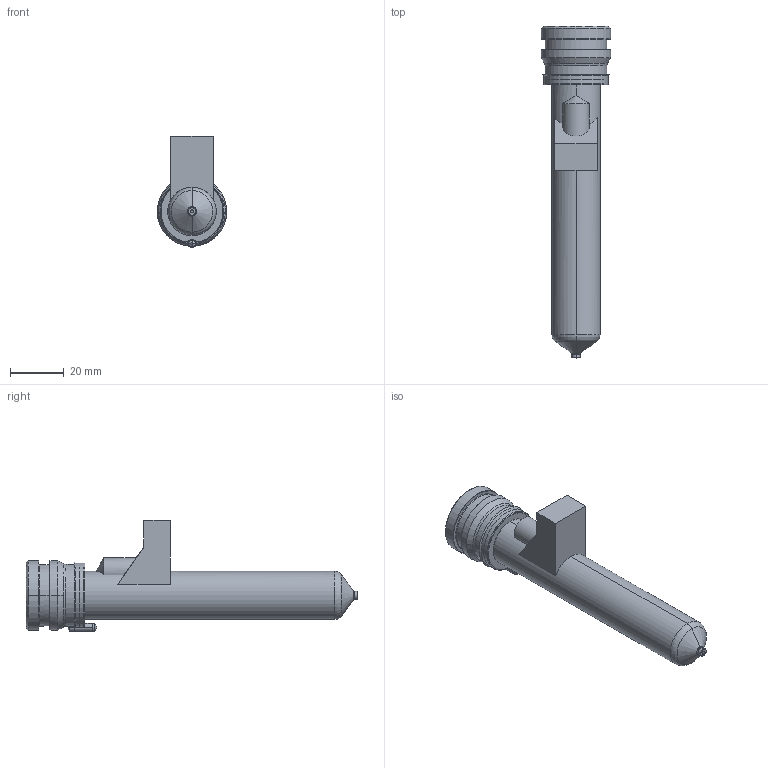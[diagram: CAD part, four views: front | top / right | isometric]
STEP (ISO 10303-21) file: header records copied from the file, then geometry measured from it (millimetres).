
FILE_DESCRIPTION((''),'2;1');
FILE_NAME('MPN-08-24-VP3-106-M','2026-02-05T13:32:44',('UPTIO'),('Thermoplay S.p.A.'),'CREO PARAMETRIC BY PTC INC, 2023494','CREO PARAMETRIC BY PTC INC, 2023494','');
FILE_SCHEMA(('CONFIG_CONTROL_DESIGN','SHAPE_APPEARANCE_LAYERS_GROUPS'));
Length unit declared in the file: millimetre
Products named in the file (1): MPN-08-24-VP3-106-M
Bounding box: 26 x 124.1 x 41.5 mm (x, y, z)
Volume: 24525 mm3; surface area: 32255.5 mm2
Topology: 2 solids, 3 shells, 571 faces, 1494 edges, 922 vertices
Faces by surface type: cylinder 178, plane 143, bspline 103, torus 68, cone 66, sphere 7, extrusion 6
Entity records: 29697 total; most frequent: CARTESIAN_POINT 13187, ORIENTED_EDGE 2970, DIRECTION 2631, EDGE_CURVE 1485, AXIS2_PLACEMENT_3D 1029, VERTEX_POINT 922, EDGE_LOOP 601, VECTOR 573
